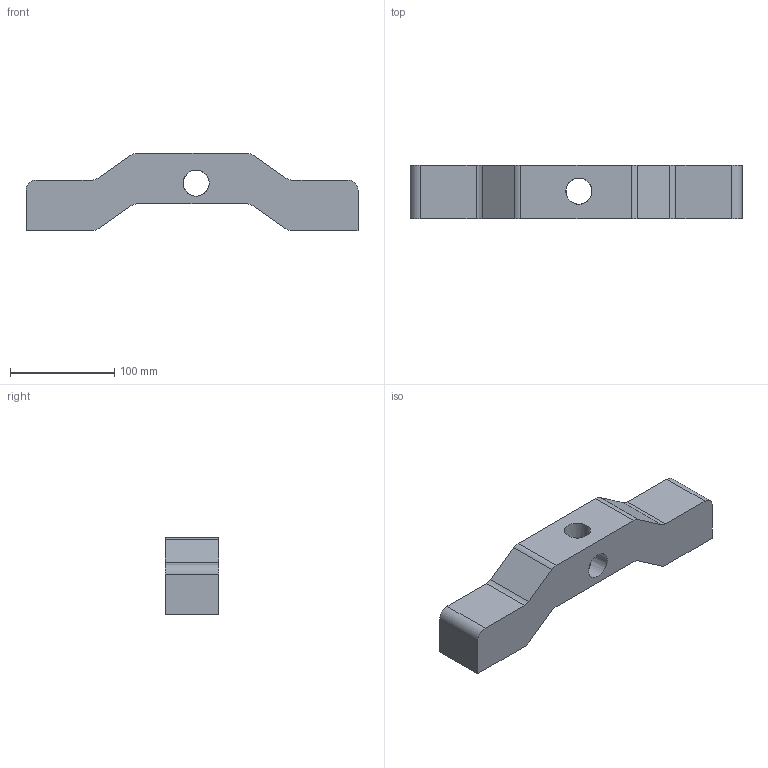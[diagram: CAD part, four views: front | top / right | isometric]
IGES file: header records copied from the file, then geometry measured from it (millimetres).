
Global section: file name: No Iges File Name specified; native system: Autodesk Inventor 2012; preprocessor: AutoDesk Inventor Iges Exporter R2012; author: cadcim; date: 20111128.154311; units: millimetre
Bounding box: 317.85 x 51.5 x 73.88 mm (x, y, z)
Volume: 751671.7 mm3; surface area: 72943.2 mm2
Topology: 1 solids, 1 shells, 26 faces, 78 edges, 53 vertices
Faces by surface type: plane 14, revolution 6, cylinder 6
